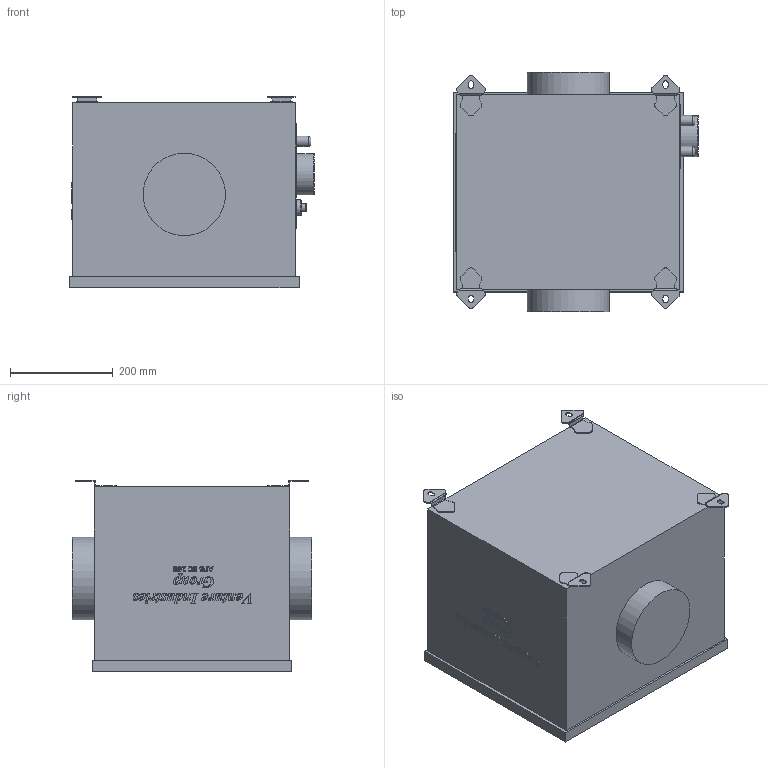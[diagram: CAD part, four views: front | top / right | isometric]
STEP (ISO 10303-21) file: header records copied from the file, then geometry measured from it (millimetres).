
FILE_DESCRIPTION(/* description */ (''),/* implementation_level */ '2;1');
FILE_NAME(/* name */ 'D:\Piotr - Dokumenty\Modele uproszczone\AFB EC\AFB_EC_160\AFB_EC_160.stp',/* time_stamp */ '2021-03-23T13:41:09+01:00',/* author */ ('Piotr.Nowotniak'),/* organization */ (''),/* preprocessor_version */ 'ST-DEVELOPER v18',/* originating_system */ 'Autodesk Inventor 2020',/* authorisation */ '');
FILE_SCHEMA (('AUTOMOTIVE_DESIGN { 1 0 10303 214 3 1 1 }'));
Length unit declared in the file: millimetre
Products named in the file (1): AFB_EC_160
Bounding box: 476 x 465.8 x 372.46 mm (x, y, z)
Volume: 61448099.1 mm3; surface area: 1009037.4 mm2
Topology: 1 solids, 1 shells, 796 faces, 2197 edges, 1458 vertices
Faces by surface type: bspline 379, plane 329, cylinder 83, torus 5
Full cylindrical faces by diameter (mm): 15 x1, 20.2 x2, 30 x1, 80 x1, 160 x2
Entity records: 31566 total; most frequent: CARTESIAN_POINT 13424, ORIENTED_EDGE 4394, DIRECTION 2436, EDGE_CURVE 2197, VERTEX_POINT 1458, LINE 1278, VECTOR 1278, EDGE_LOOP 859
